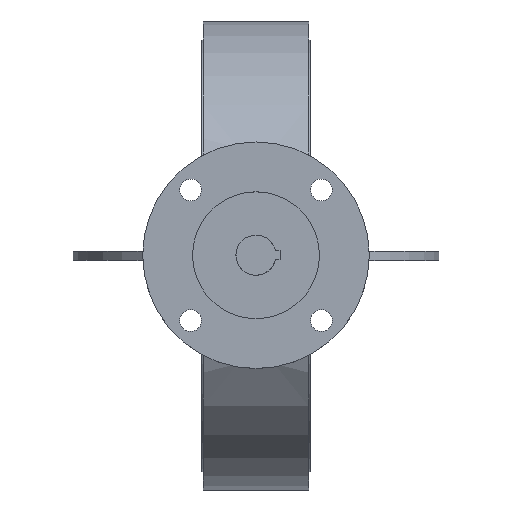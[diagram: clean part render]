
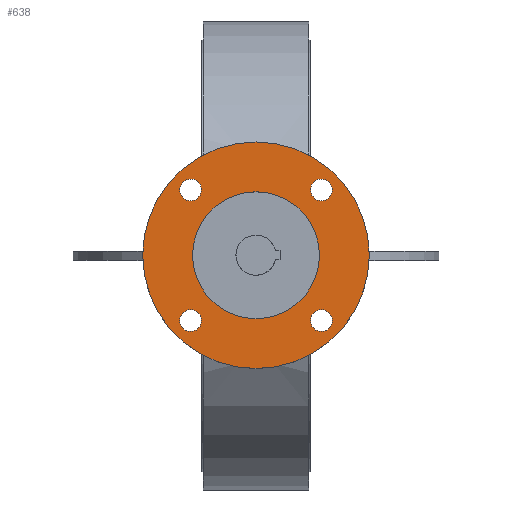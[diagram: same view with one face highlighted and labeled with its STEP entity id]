
A CAD part, top view. The second image highlights one B-rep face of the part: STEP entity #638.
In plain terms, the highlighted planar face has unit normal (0, 0, 1).
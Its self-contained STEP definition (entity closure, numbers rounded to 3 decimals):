
#638=ADVANCED_FACE('',(#1405,#1407,#1409,#1411,#1413,#1415),#1417,.T.);
#1405=FACE_BOUND('',#1406,.T.);
#1406=EDGE_LOOP('',(#1920));
#1407=FACE_BOUND('',#1408,.T.);
#1408=EDGE_LOOP('',(#1921));
#1409=FACE_BOUND('',#1410,.T.);
#1410=EDGE_LOOP('',(#1922));
#1411=FACE_BOUND('',#1412,.T.);
#1412=EDGE_LOOP('',(#1923));
#1413=FACE_BOUND('',#1414,.T.);
#1414=EDGE_LOOP('',(#1924));
#1415=FACE_BOUND('',#1416,.T.);
#1416=EDGE_LOOP('',(#1925));
#1417=PLANE('',#1418);
#1418=AXIS2_PLACEMENT_3D('',#1419,#1420,#1421);
#1419=CARTESIAN_POINT('',(0.,0.,235.));
#1420=DIRECTION('',(0.,0.,1.));
#1421=DIRECTION('',(0.,1.,0.));
#1920=ORIENTED_EDGE('',*,*,#2176,.F.);
#1921=ORIENTED_EDGE('',*,*,#2177,.T.);
#1922=ORIENTED_EDGE('',*,*,#2178,.T.);
#1923=ORIENTED_EDGE('',*,*,#2179,.T.);
#1924=ORIENTED_EDGE('',*,*,#2195,.T.);
#1925=ORIENTED_EDGE('',*,*,#2180,.T.);
#2176=EDGE_CURVE('',#2493,#2493,#2494,.T.);
#2177=EDGE_CURVE('',#2495,#2495,#2496,.F.);
#2178=EDGE_CURVE('',#2497,#2497,#2498,.F.);
#2179=EDGE_CURVE('',#2499,#2499,#2500,.F.);
#2180=EDGE_CURVE('',#2501,#2501,#2502,.F.);
#2195=EDGE_CURVE('',#2531,#2531,#2532,.T.);
#2493=VERTEX_POINT('',#4382);
#2494=CIRCLE('',#4383,62.5);
#2495=VERTEX_POINT('',#4387);
#2496=CIRCLE('',#4388,6.);
#2497=VERTEX_POINT('',#4392);
#2498=CIRCLE('',#4393,6.);
#2499=VERTEX_POINT('',#4397);
#2500=CIRCLE('',#4398,6.);
#2501=VERTEX_POINT('',#4402);
#2502=CIRCLE('',#4403,6.);
#2531=VERTEX_POINT('',#4470);
#2532=CIRCLE('',#4471,35.);
#4382=CARTESIAN_POINT('',(0.,62.5,235.));
#4383=AXIS2_PLACEMENT_3D('',#4384,#4385,#4386);
#4384=CARTESIAN_POINT('',(0.,0.,235.));
#4385=DIRECTION('',(0.,0.,-1.));
#4386=DIRECTION('',(0.,1.,0.));
#4387=CARTESIAN_POINT('',(-30.062,-36.062,235.));
#4388=AXIS2_PLACEMENT_3D('',#4389,#4390,#4391);
#4389=CARTESIAN_POINT('',(-36.062,-36.062,235.));
#4390=DIRECTION('',(0.,0.,1.));
#4391=DIRECTION('',(1.,0.,0.));
#4392=CARTESIAN_POINT('',(-36.062,30.062,235.));
#4393=AXIS2_PLACEMENT_3D('',#4394,#4395,#4396);
#4394=CARTESIAN_POINT('',(-36.062,36.062,235.));
#4395=DIRECTION('',(0.,0.,1.));
#4396=DIRECTION('',(0.,-1.,0.));
#4397=CARTESIAN_POINT('',(30.062,36.062,235.));
#4398=AXIS2_PLACEMENT_3D('',#4399,#4400,#4401);
#4399=CARTESIAN_POINT('',(36.062,36.062,235.));
#4400=DIRECTION('',(0.,0.,1.));
#4401=DIRECTION('',(-1.,0.,0.));
#4402=CARTESIAN_POINT('',(36.062,-30.062,235.));
#4403=AXIS2_PLACEMENT_3D('',#4404,#4405,#4406);
#4404=CARTESIAN_POINT('',(36.062,-36.062,235.));
#4405=DIRECTION('',(0.,0.,1.));
#4406=DIRECTION('',(0.,1.,0.));
#4470=CARTESIAN_POINT('',(0.,35.,235.));
#4471=AXIS2_PLACEMENT_3D('',#4472,#4473,#4474);
#4472=CARTESIAN_POINT('',(0.,0.,235.));
#4473=DIRECTION('',(0.,0.,-1.));
#4474=DIRECTION('',(0.,1.,0.));
